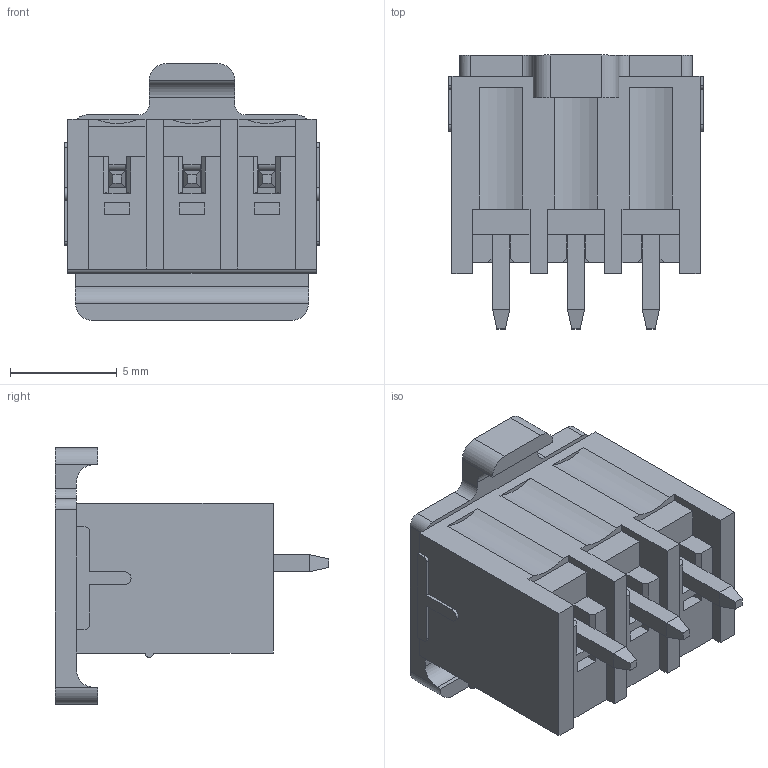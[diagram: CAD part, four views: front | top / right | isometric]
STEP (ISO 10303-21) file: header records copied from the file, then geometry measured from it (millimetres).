
FILE_DESCRIPTION((''),'2;1');
FILE_NAME('3PIN','2021-08-12T',('renkang.li'),(''),'CREO PARAMETRIC BY PTC INC, 2016260','CREO PARAMETRIC BY PTC INC, 2016260','');
FILE_SCHEMA(('CONFIG_CONTROL_DESIGN'));
Length unit declared in the file: millimetre
Products named in the file (1): 3PIN
Bounding box: 11.9 x 12.8 x 12 mm (x, y, z)
Volume: 514.1 mm3; surface area: 1540.4 mm2
Topology: 1 solids, 4 shells, 339 faces, 1037 edges, 688 vertices
Faces by surface type: plane 250, cylinder 53, cone 18, torus 18
Entity records: 11982 total; most frequent: CARTESIAN_POINT 2679, ORIENTED_EDGE 2074, DIRECTION 1797, EDGE_CURVE 1037, VECTOR 703, LINE 703, VERTEX_POINT 688, AXIS2_PLACEMENT_3D 547
